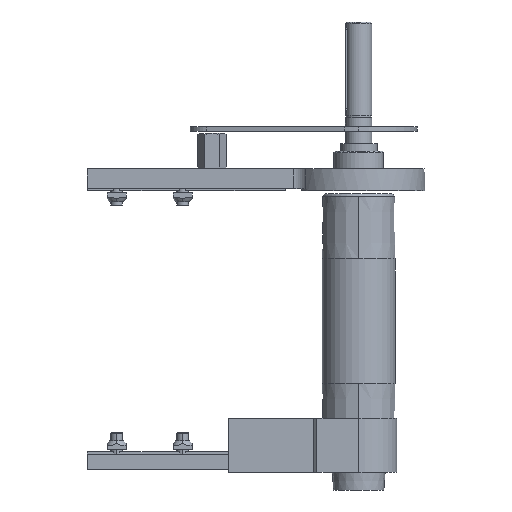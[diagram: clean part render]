
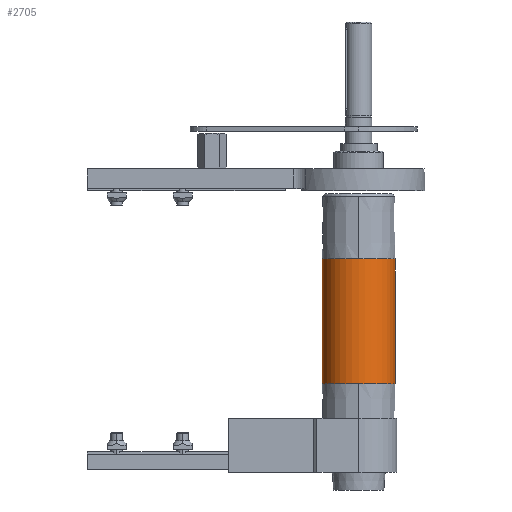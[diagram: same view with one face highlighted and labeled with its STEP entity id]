
A CAD part, front view. The second image highlights one B-rep face of the part: STEP entity #2705.
In plain terms, the highlighted cylindrical face has radius 25 mm (diameter 50 mm), a partial arc.
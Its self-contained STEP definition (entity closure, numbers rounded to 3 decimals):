
#128 = EDGE_CURVE ( 'NONE', #4478, #4592, #3480, .T. ) ;
#463 = AXIS2_PLACEMENT_3D ( 'NONE', #8602, #8025, #8174 ) ;
#509 = AXIS2_PLACEMENT_3D ( 'NONE', #4691, #5095, #5118 ) ;
#729 = DIRECTION ( 'NONE',  ( 0., 1., 0. ) ) ;
#757 = CARTESIAN_POINT ( 'NONE',  ( 0., 0., -42.5 ) ) ;
#771 = DIRECTION ( 'NONE',  ( 0., 0., -1. ) ) ;
#817 = DIRECTION ( 'NONE',  ( 0., 0., -1. ) ) ;
#876 = CARTESIAN_POINT ( 'NONE',  ( 25., 0., 85. ) ) ;
#945 = AXIS2_PLACEMENT_3D ( 'NONE', #7142, #7147, #7297 ) ;
#1014 = AXIS2_PLACEMENT_3D ( 'NONE', #757, #817, #729 ) ;
#1041 = AXIS2_PLACEMENT_3D ( 'NONE', #1747, #1186, #1816 ) ;
#1186 = DIRECTION ( 'NONE',  ( 0., 0., -1. ) ) ;
#1747 = CARTESIAN_POINT ( 'NONE',  ( 0., 0., 42.5 ) ) ;
#1772 = EDGE_LOOP ( 'NONE', ( #6224, #4192, #6243, #6402, #6889, #7072 ) ) ;
#1816 = DIRECTION ( 'NONE',  ( 0., 1., 0. ) ) ;
#2705 = ADVANCED_FACE ( 'NONE', ( #2906 ), #3203, .T. ) ;
#2906 = FACE_OUTER_BOUND ( 'NONE', #1772, .T. ) ;
#3203 = CYLINDRICAL_SURFACE ( 'NONE', #463, 25. ) ;
#3480 = CIRCLE ( 'NONE', #509, 25. ) ;
#3964 = VERTEX_POINT ( 'NONE', #5787 ) ;
#4095 = VERTEX_POINT ( 'NONE', #5213 ) ;
#4192 = ORIENTED_EDGE ( 'NONE', *, *, #9178, .T. ) ;
#4218 = VERTEX_POINT ( 'NONE', #5346 ) ;
#4478 = VERTEX_POINT ( 'NONE', #9020 ) ;
#4565 = VERTEX_POINT ( 'NONE', #8996 ) ;
#4592 = VERTEX_POINT ( 'NONE', #8917 ) ;
#4691 = CARTESIAN_POINT ( 'NONE',  ( 0., 0., 42.5 ) ) ;
#5095 = DIRECTION ( 'NONE',  ( 0., 0., -1. ) ) ;
#5118 = DIRECTION ( 'NONE',  ( 0., 1., 0. ) ) ;
#5213 = CARTESIAN_POINT ( 'NONE',  ( 25., 0., -42.5 ) ) ;
#5346 = CARTESIAN_POINT ( 'NONE',  ( -25., 0., 42.5 ) ) ;
#5787 = CARTESIAN_POINT ( 'NONE',  ( -25., 0., -42.5 ) ) ;
#6224 = ORIENTED_EDGE ( 'NONE', *, *, #8632, .T. ) ;
#6243 = ORIENTED_EDGE ( 'NONE', *, *, #9218, .F. ) ;
#6402 = ORIENTED_EDGE ( 'NONE', *, *, #9100, .F. ) ;
#6889 = ORIENTED_EDGE ( 'NONE', *, *, #9091, .F. ) ;
#7072 = ORIENTED_EDGE ( 'NONE', *, *, #128, .T. ) ;
#7084 = CARTESIAN_POINT ( 'NONE',  ( -25., 0., 85. ) ) ;
#7142 = CARTESIAN_POINT ( 'NONE',  ( 0., 0., -42.5 ) ) ;
#7147 = DIRECTION ( 'NONE',  ( 0., 0., -1. ) ) ;
#7297 = DIRECTION ( 'NONE',  ( 0., 1., 0. ) ) ;
#7387 = DIRECTION ( 'NONE',  ( 0., 0., -1. ) ) ;
#8025 = DIRECTION ( 'NONE',  ( 0., 0., -1. ) ) ;
#8174 = DIRECTION ( 'NONE',  ( 1., 0., 0. ) ) ;
#8602 = CARTESIAN_POINT ( 'NONE',  ( 0., 0., 85. ) ) ;
#8632 = EDGE_CURVE ( 'NONE', #4592, #4218, #9836, .T. ) ;
#8917 = CARTESIAN_POINT ( 'NONE',  ( 0., -25., 42.5 ) ) ;
#8996 = CARTESIAN_POINT ( 'NONE',  ( 0., -25., -42.5 ) ) ;
#9020 = CARTESIAN_POINT ( 'NONE',  ( 25., 0., 42.5 ) ) ;
#9091 = EDGE_CURVE ( 'NONE', #4478, #4095, #9658, .T. ) ;
#9100 = EDGE_CURVE ( 'NONE', #4095, #4565, #9850, .T. ) ;
#9178 = EDGE_CURVE ( 'NONE', #4218, #3964, #9718, .T. ) ;
#9218 = EDGE_CURVE ( 'NONE', #4565, #3964, #9492, .T. ) ;
#9492 = CIRCLE ( 'NONE', #945, 25. ) ;
#9511 = VECTOR ( 'NONE', #7387, 1000. ) ;
#9658 = LINE ( 'NONE', #876, #9736 ) ;
#9718 = LINE ( 'NONE', #7084, #9511 ) ;
#9736 = VECTOR ( 'NONE', #771, 1000. ) ;
#9836 = CIRCLE ( 'NONE', #1041, 25. ) ;
#9850 = CIRCLE ( 'NONE', #1014, 25. ) ;
